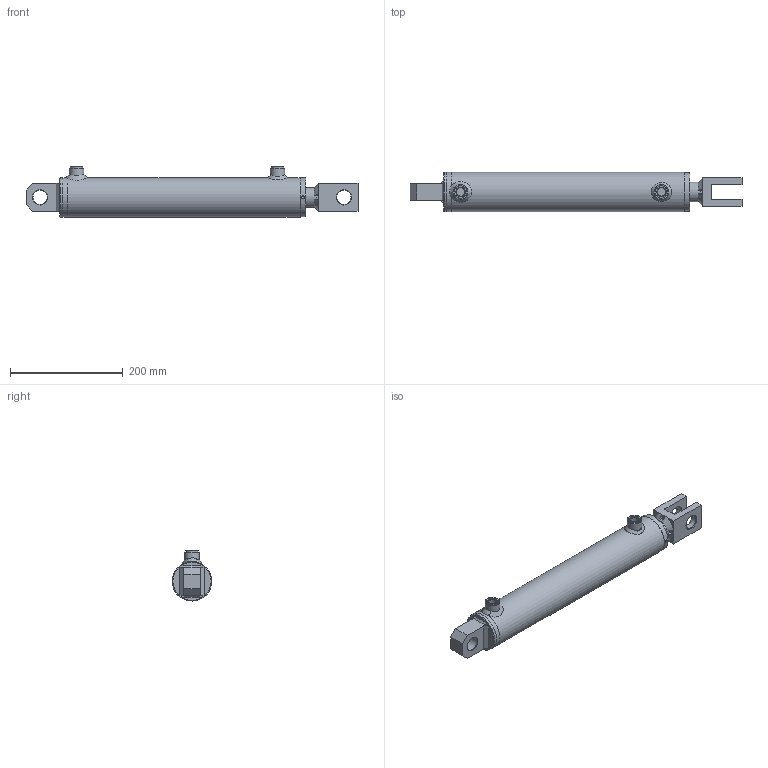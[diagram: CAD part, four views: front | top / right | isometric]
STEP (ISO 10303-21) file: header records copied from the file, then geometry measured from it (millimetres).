
FILE_DESCRIPTION( ( 'Unknown' ), '1' );
FILE_NAME( 'E:/LIBRERIA_3d/CILINDRI/HM5/HM53350300.stp', 'Unknown', ( 'Unknown' ), ( 'Unknown' ), 'PSStep 17.0.49', 'Unknown', ' ' );
FILE_SCHEMA( ( 'AUTOMOTIVE_DESIGN { 1 0 10303 214 1 1 1 1 }' ) );
Length unit declared in the file: millimetre
Products named in the file (40): CT00060020; STL3500300-oa8; Saldatura d'angolo 1-oa6; FTM3500300-oa7; CBSC220600; CG07006035; HM03350300; Saldatura con preparazione 1-oa4; Saldatura d'angolo 1-oa5; CF00060070; CBS0600000; CDA0002015; APG0600000; SBL3530300; Assem1; COF2500000; CFS0000025; Saldatura d'angolo 1-oa0; Saldatura d'angolo 2-oa1; Saldatura con preparazione 1-oa2; Saldatura d'angolo 3-oa3
Assembly tree (20 placements, depth 4):
  Saldatura d'angolo 1-oa6
  Saldatura d'angolo 1-oa6
  Saldatura d'angolo 1-oa5
  Saldatura d'angolo 1-oa5
  Assem1
    COF2500000
    CFS0000025
    Saldatura con preparazione 1-oa2
    Saldatura con preparazione 1-oa2
    HM03350300
      Saldatura con preparazione 1-oa4
      Saldatura con preparazione 1-oa4
      CF00060070
      CBS0600000
      CDA0002015
      APG0600000  x2
      SBL3530300
      CT00060020
        CT00060020
      STL3500300-oa8
        FTM3500300-oa7
        CBSC220600
      CG07006035
        CG07006035
Bounding box: 590 x 70 x 89 mm (x, y, z)
Volume: 1242427.3 mm3; surface area: 349636.3 mm2
Topology: 36 solids, 36 shells, 322 faces, 653 edges, 414 vertices
Faces by surface type: plane 142, cylinder 72, cone 52, torus 38, bspline 18
Full cylindrical faces by diameter (mm): 4.25 x3, 5 x2, 6 x2, 7 x2, 14.95 x2, 16 x2, 16.6 x2, 19.4 x1, 20 x5, 22 x2, 24.5 x1, 25.25 x3, 26 x2, 30 x1, 35 x6, 37 x1, 38 x1, 43.6 x1, 44 x1, 45 x1, 55 x1, 55.39 x2, 58.65 x2, 59.9 x1, 60 x1, 60.3 x1, 60.5 x1, 60.6 x1, 61 x1, 62 x3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
Entity records: 13116 total; most frequent: CARTESIAN_POINT 4467, DIRECTION 1288, ORIENTED_EDGE 876, AXIS2_PLACEMENT_3D 550, EDGE_LOOP 502, EDGE_CURVE 438, FACE_OUTER_BOUND 412, VERTEX_POINT 355
